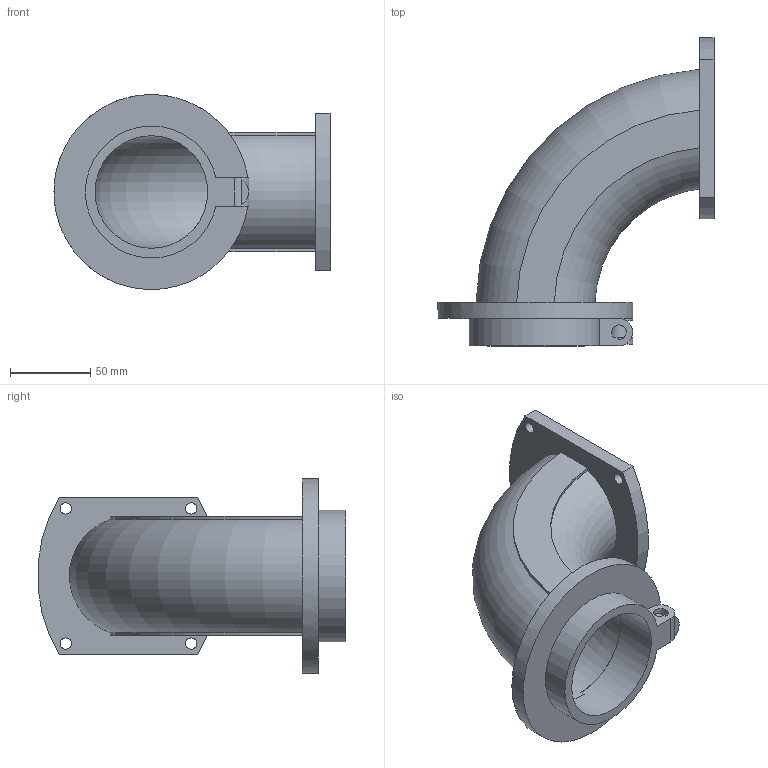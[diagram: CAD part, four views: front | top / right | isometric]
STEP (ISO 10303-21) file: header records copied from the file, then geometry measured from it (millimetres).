
FILE_DESCRIPTION( ( 'STEP AP214' ), '1' );
FILE_NAME( 'e:/temp/worker_26/temp/exporttempdir_8328_146_arHg7/format_0/TWOC_IP55-70B.stp', '2021-04-13T15:16:47', ( 'License CC BY-ND 4.0' ), ( 'CADENAS' ), ' ', 'PARTsolutions', ' ' );
FILE_SCHEMA( ( 'AUTOMOTIVE_DESIGN { 1 0 10303 214 1 1 1 1 }' ) );
Length unit declared in the file: millimetre
Products named in the file (1): _TWOC_IP55-70B
Bounding box: 171.5 x 191.32 x 121 mm (x, y, z)
Surface area: 122599.5 mm2 (no closed solid volume)
Topology: 0 solids, 1 shells, 45 faces, 118 edges, 78 vertices
Faces by surface type: cylinder 24, plane 18, torus 3
Full cylindrical faces by diameter (mm): 7 x4, 70 x1, 121 x1
Entity records: 2233 total; most frequent: CARTESIAN_POINT 788, DIRECTION 221, ORIENTED_EDGE 208, EDGE_CURVE 104, AXIS2_PLACEMENT_3D 90, VERTEX_POINT 73, EDGE_LOOP 67, FACE_OUTER_BOUND 52
